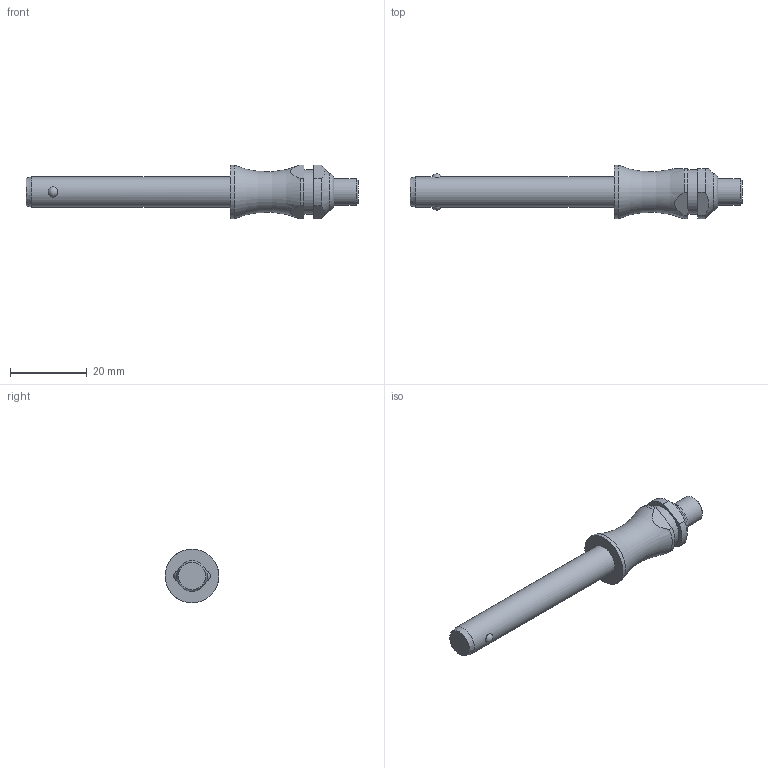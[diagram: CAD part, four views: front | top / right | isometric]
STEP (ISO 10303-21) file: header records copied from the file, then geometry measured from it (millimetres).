
FILE_DESCRIPTION( ( 'STEP AP203' ), '1' );
FILE_NAME( 'C:/Temp/Ganter_Step_05_03_2020/data/3_1/gn113_3/Stainless Steel-Ball lock pin GN 113.3-8-45 (deactivated).stp', '2020-03-12T08:18:25', ( 'License CC BY-ND 4.0' ), ( 'CADENAS' ), ' ', 'PARTsolutions', ' ' );
FILE_SCHEMA( ( 'CONFIG_CONTROL_DESIGN' ) );
Length unit declared in the file: millimetre
Products named in the file (1): _Stainless Steel-Ball lock pin GN 113.3-8-45 (deactivated)
Bounding box: 86.5 x 14 x 14 mm (x, y, z)
Volume: 5893.9 mm3; surface area: 2794.4 mm2
Topology: 1 solids, 1 shells, 28 faces, 60 edges, 39 vertices
Faces by surface type: plane 11, cylinder 10, cone 3, torus 2, sphere 2
Full cylindrical faces by diameter (mm): 7 x1, 8 x1, 11.6 x1, 14 x1
Entity records: 916 total; most frequent: CARTESIAN_POINT 303, DIRECTION 122, ORIENTED_EDGE 98, AXIS2_PLACEMENT_3D 52, EDGE_CURVE 49, EDGE_LOOP 42, VERTEX_POINT 37, FACE_OUTER_BOUND 34
